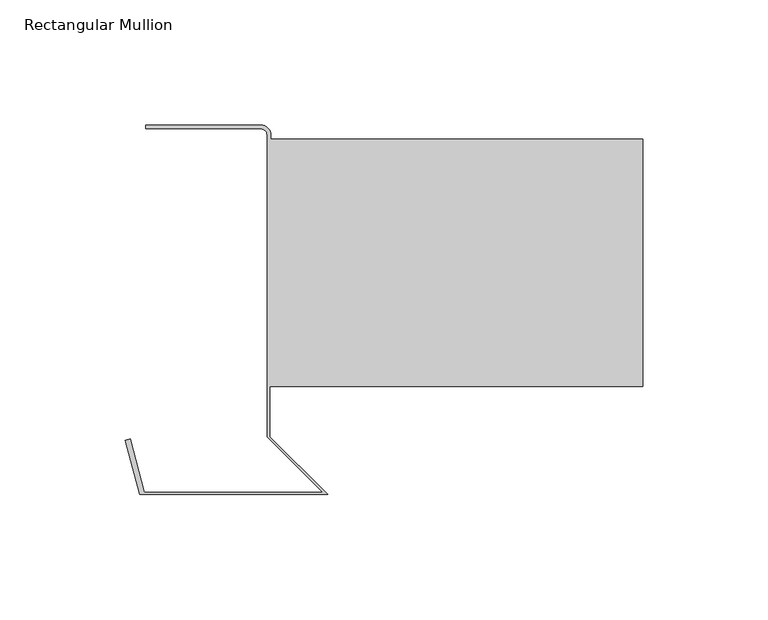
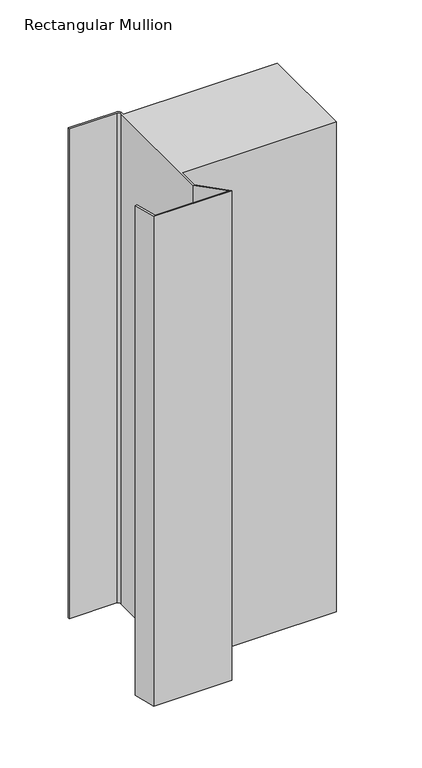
"""IFC4 building model written with IfcOpenShell, lengths in millimetres: member geometry, Rectangular Mullion : TE-V-02_01_Base detail i."""

import ifcopenshell
import ifcopenshell.guid

model = None  # the IFC model being written
_history = None  # IfcOwnerHistory: only IFC2X3 demands one
_inside = {}  # id of a spatial element -> (the spatial element, [elements in it])
_under = {}  # id of a project, library or spatial element -> (it, [spatial elements below it])
_declared = {}  # id of a project -> (the project, [libraries it declares])
_typed = {}  # id of a type object -> (the type object, [elements of that type])
_made_of = {}  # id of a material, layer set ... -> (it, [elements and type objects made of it])


def new_model(schema):
    """Start an empty IFC model of exactly this schema.

    Asked for "IFC4X3", IfcOpenShell would pick the latest addendum, in which some entities
    have other attributes; the version numbers below select the first issue.
    IFC2X3 requires an IfcOwnerHistory on every rooted entity: one is made here for all.
    """
    global model, _history
    if schema == "IFC4X3":
        model = ifcopenshell.file(schema_version=(4, 3, 0, 0))
    else:
        model = ifcopenshell.file(schema=schema)
    _inside.clear()
    _under.clear()
    _declared.clear()
    _typed.clear()
    _made_of.clear()
    _history = None
    if model.schema == "IFC2X3":
        org = make("IfcOrganization", Name="unknown")
        user = make(
            "IfcPersonAndOrganization",
            ThePerson=make("IfcPerson", FamilyName="unknown"),
            TheOrganization=org,
        )
        app = make(
            "IfcApplication",
            ApplicationDeveloper=org,
            Version="unknown",
            ApplicationFullName="unknown",
            ApplicationIdentifier="unknown",
        )
        _history = make(
            "IfcOwnerHistory",
            OwningUser=user,
            OwningApplication=app,
            ChangeAction="ADDED",
            CreationDate=0,
        )
    return model


def make(cls, **values):
    """One entity of the class cls with the attributes given. An attribute that is None is left unset."""
    return model.create_entity(
        cls, **{name: value for name, value in values.items() if value is not None}
    )


def rooted(cls, **values):
    """An entity with a GlobalId (a new one), such as an element, a storey or a relation."""
    return make(cls, GlobalId=ifcopenshell.guid.new(), OwnerHistory=_history, **values)


def si_unit(unit_type, name, prefix=None):
    """IfcSIUnit, for example si_unit("LENGTHUNIT", "METRE", prefix="MILLI")."""
    return make("IfcSIUnit", UnitType=unit_type, Prefix=prefix, Name=name)


def assignment(units):
    """IfcUnitAssignment: the units of a project."""
    return None if units is None else make("IfcUnitAssignment", Units=units)


def point(xyz):
    """IfcCartesianPoint."""
    return None if xyz is None else make("IfcCartesianPoint", Coordinates=xyz)


def direction(xyz):
    """IfcDirection."""
    return None if xyz is None else make("IfcDirection", DirectionRatios=xyz)


def frame(location, z_axis=None, x_axis=None):
    """IfcAxis2Placement3D, a coordinate frame: its origin and axes. An axis left out is left unset."""
    return make(
        "IfcAxis2Placement3D",
        Location=point(location),
        Axis=direction(z_axis),
        RefDirection=direction(x_axis),
    )


def frame_2d(location, x_axis=None):
    """IfcAxis2Placement2D, a coordinate frame in the plane: its origin and x axis."""
    return make(
        "IfcAxis2Placement2D", Location=point(location), RefDirection=direction(x_axis)
    )


def origin():
    """The frame at (0, 0, 0) with its axes left unset."""
    return frame((0.0, 0.0, 0.0))


def place(relative_to, where):
    """IfcLocalPlacement: puts the frame where relative to a parent placement (None: the world)."""
    return make(
        "IfcLocalPlacement", PlacementRelTo=relative_to, RelativePlacement=where
    )


def context(
    kind, dimensions, precision=None, world=None, true_north=None, identifier=None
):
    """IfcGeometricRepresentationContext, for example the 3D "Model" context."""
    return make(
        "IfcGeometricRepresentationContext",
        ContextIdentifier=identifier,
        ContextType=kind,
        CoordinateSpaceDimension=dimensions,
        Precision=precision,
        WorldCoordinateSystem=world,
        TrueNorth=true_north,
    )


def project(units=None, contexts=None):
    """IfcProject with its units and contexts."""
    return rooted(
        "IfcProject",
        Name="project",
        RepresentationContexts=contexts,
        UnitsInContext=assignment(units),
    )


def spatial(cls, under=None, at=None, **own):
    """A site, building, storey or space (cls), placed at a placement, below another one or the project."""
    s = rooted(cls, ObjectPlacement=at, **own)
    if under is not None:
        _under.setdefault(under.id(), (under, []))[1].append(s)
    return s


def polyline(points):
    """IfcPolyline through the points."""
    return make("IfcPolyline", Points=[point(p) for p in points])


def circle_curve(where, radius):
    """IfcCircle in the frame where."""
    return make("IfcCircle", Position=where, Radius=radius)


def trimmed(basis, trim1, trim2, sense, master):
    """IfcTrimmedCurve: the piece of a basis curve between two trims."""
    return make(
        "IfcTrimmedCurve",
        BasisCurve=basis,
        Trim1=trim1,
        Trim2=trim2,
        SenseAgreement=sense,
        MasterRepresentation=master,
    )


def segment(curve, same_sense, transition):
    """IfcCompositeCurveSegment."""
    return make(
        "IfcCompositeCurveSegment",
        Transition=transition,
        SameSense=same_sense,
        ParentCurve=curve,
    )


def composite_curve(segments, self_intersect=None):
    """IfcCompositeCurve: segments joined end to end."""
    return make("IfcCompositeCurve", Segments=segments, SelfIntersect=self_intersect)


def outline(outer, holes=None, kind="AREA"):
    """IfcArbitraryClosedProfileDef: a profile drawn as a closed curve; with holes, ...WithVoids."""
    if holes is None:
        return make("IfcArbitraryClosedProfileDef", ProfileType=kind, OuterCurve=outer)
    return make(
        "IfcArbitraryProfileDefWithVoids",
        ProfileType=kind,
        OuterCurve=outer,
        InnerCurves=holes,
    )


def extrude(swept, where, along, depth):
    """IfcExtrudedAreaSolid: the profile swept, set in the frame where, extruded along a direction by depth."""
    return make(
        "IfcExtrudedAreaSolid",
        SweptArea=swept,
        Position=where,
        ExtrudedDirection=direction(along),
        Depth=depth,
    )


def shape(context_of_items, identifier, shape_type, items):
    """IfcShapeRepresentation: the items that make up one representation, for example the "Body"."""
    return make(
        "IfcShapeRepresentation",
        ContextOfItems=context_of_items,
        RepresentationIdentifier=identifier,
        RepresentationType=shape_type,
        Items=items,
    )


def source(mapping_origin, context_of_items, identifier, shape_type, items):
    """IfcRepresentationMap: a shape defined once, which mapped items show again and again."""
    return make(
        "IfcRepresentationMap",
        MappingOrigin=mapping_origin,
        MappedRepresentation=shape(context_of_items, identifier, shape_type, items),
    )


def transform(
    local_origin,
    x_axis=None,
    y_axis=None,
    z_axis=None,
    scale=None,
    scale2=None,
    scale3=None,
    uniform=True,
):
    """IfcCartesianTransformationOperator3D, or its non-uniform kind. x_axis, y_axis, z_axis: its Axis1, 2, 3."""
    if uniform:
        return make(
            "IfcCartesianTransformationOperator3D",
            Axis1=direction(x_axis),
            Axis2=direction(y_axis),
            LocalOrigin=point(local_origin),
            Scale=scale,
            Axis3=direction(z_axis),
        )
    return make(
        "IfcCartesianTransformationOperator3DnonUniform",
        Axis1=direction(x_axis),
        Axis2=direction(y_axis),
        LocalOrigin=point(local_origin),
        Scale=scale,
        Axis3=direction(z_axis),
        Scale2=scale2,
        Scale3=scale3,
    )


def mapped(mapping_source, mapping_target):
    """IfcMappedItem: shows the shape of a source again, moved by a transform."""
    return make(
        "IfcMappedItem", MappingSource=mapping_source, MappingTarget=mapping_target
    )


def made_of(thing, what):
    """Note that an element or type object is made of a material, layer set ...; save() writes the relation."""
    if what is not None:
        _made_of.setdefault(what.id(), (what, []))[1].append(thing)
    return thing


def element(
    cls,
    number,
    at=None,
    inside=None,
    cuts=None,
    type_object=None,
    material=None,
    context=None,
    identifier="Body",
    shape_type=None,
    held_by="IfcProductDefinitionShape",
    body=None,
    shapes=None,
    **own,
):
    """One element of the class cls, such as IfcWall. Its Tag is "e" and its number.

    at: its placement. inside: the storey or other place that contains it. cuts: it is an
    opening in that element (IfcRelVoidsElement). A single representation is given by context,
    identifier, shape_type and body (its items); several are given by shapes. held_by: the class
    of the entity that holds the representations. save() writes the other relations.
    """
    e = rooted(cls, Tag="e%d" % number, ObjectPlacement=at, **own)
    if body is not None:
        shapes = [shape(context, identifier, shape_type, body)]
    if shapes is not None:
        e.Representation = make(held_by, Representations=shapes)
    if inside is not None:
        _inside.setdefault(inside.id(), (inside, []))[1].append(e)
    if cuts is not None:
        rooted(
            "IfcRelVoidsElement", RelatingBuildingElement=cuts, RelatedOpeningElement=e
        )
    if type_object is not None:
        _typed.setdefault(type_object.id(), (type_object, []))[1].append(e)
    return made_of(e, material)


def aggregate(whole, parts):
    """IfcRelAggregates: a whole, such as a stair, and the parts it consists of."""
    return rooted("IfcRelAggregates", RelatingObject=whole, RelatedObjects=parts)


def save(model, path):
    """Write the relations noted so far, then the file.

    IfcRelAggregates (storeys below a building ...), IfcRelContainedInSpatialStructure (elements
    in a storey), IfcRelDefinesByType, IfcRelAssociatesMaterial and IfcRelDeclares: one each for
    every whole, place, type object, material and project.
    """
    for whole, parts in _under.values():
        aggregate(whole, parts)
    for where, things in _inside.values():
        rooted(
            "IfcRelContainedInSpatialStructure",
            RelatedElements=things,
            RelatingStructure=where,
        )
    for kind, things in _typed.values():
        rooted("IfcRelDefinesByType", RelatedObjects=things, RelatingType=kind)
    for what, things in _made_of.values():
        rooted("IfcRelAssociatesMaterial", RelatedObjects=things, RelatingMaterial=what)
    for by, libraries in _declared.values():
        rooted("IfcRelDeclares", RelatingContext=by, RelatedDefinitions=libraries)
    model.write(path)


def rectangular_mullion_33361686(model_context):
    return source(origin(), model_context, "Body", "SweptSolid", [
        extrude(outline(composite_curve([segment(polyline([(-148.8686292, 20.0), (-148.8686292, 0.0), (-125.8686292, -23.0), (-200.8686292, -23.0), (-206.6383068, -1.4672699), (-204.7064551, -0.9496318), (-199.0124361, -22.2), (-127.8, -22.2), (-150.0, 0.0), (-150.0, 120.5)]), True, "CONTINUOUS"), segment(trimmed(circle_curve(frame_2d((-152.5, 120.5)), 2.5), [point((-150.0, 120.5))], [point((-152.5, 123.0))], True, "CARTESIAN"), True, "CONTINUOUS"), segment(polyline([(-152.5, 123.0), (-198.5, 123.0), (-198.5, 124.5), (-152.5, 124.5)]), True, "CONTINUOUS"), segment(trimmed(circle_curve(frame_2d((-152.5, 120.5)), 4.0), [point((-152.5, 124.5))], [point((-148.5, 120.5))], False, "CARTESIAN"), True, "CONTINUOUS"), segment(polyline([(-148.5, 120.5), (-148.5, 119.0), (0.0, 119.0), (0.0, 20.0), (-148.8686292, 20.0)]), True, "CONTINUOUS")], self_intersect=False)), frame((0.0, 0.0, -500.0000003), z_axis=(0.0, 0.0, 1.0), x_axis=(1.0, 0.0, 0.0)), (0.0, 0.0, 1.0), 500.0000003),
    ])


if __name__ == "__main__":
    model = new_model("IFC4")
    model_context = context("Model", 3, world=origin())
    ifc_project = project(units=[si_unit("LENGTHUNIT", "METRE", prefix="MILLI")], contexts=[model_context])
    site = spatial("IfcSite", under=ifc_project)
    building = spatial("IfcBuilding", under=site)
    placement = place(None, origin())
    rectangular_mullion_shape = rectangular_mullion_33361686(model_context)
    element("IfcMember", 1, ObjectType="Rectangular Mullion : TE-V-02_01_Base detail i", at=placement, inside=building, context=model_context, shape_type="MappedRepresentation", body=[
        mapped(rectangular_mullion_shape, transform((0.0, 0.0, 0.0), x_axis=(1.0, 0.0, 0.0), y_axis=(0.0, 1.0, 0.0), z_axis=(0.0, 0.0, 1.0))),
    ])
    save(model, "model.ifc")
